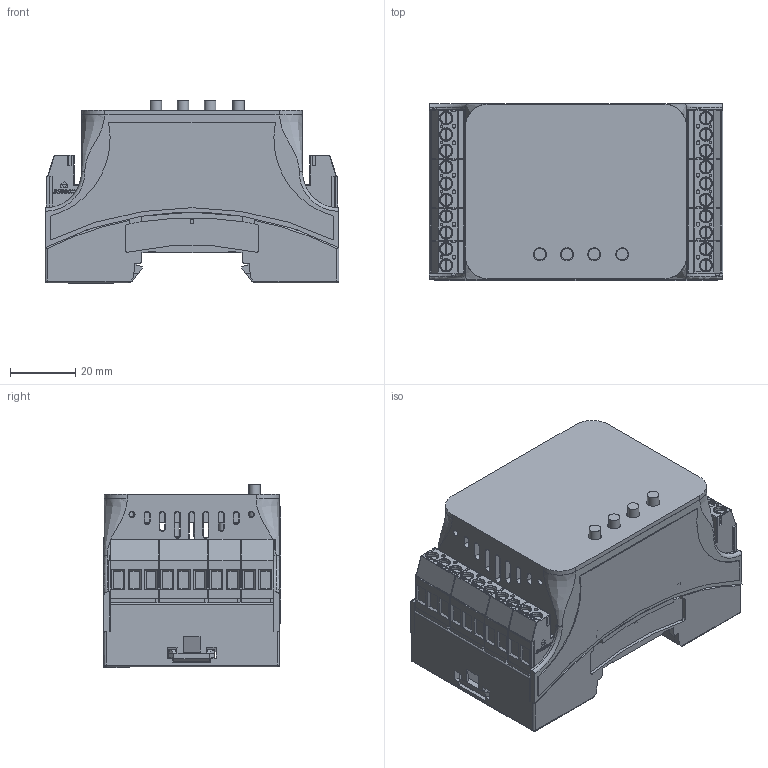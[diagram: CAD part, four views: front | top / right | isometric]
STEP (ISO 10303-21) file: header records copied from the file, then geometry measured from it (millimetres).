
FILE_DESCRIPTION(/* description */ (''),/* implementation_level */ '2;1');
FILE_NAME(/* name */ 'D:\WorkIMT\Project IMT\Флокс-ТВ\v2\3D на сайт\Флокс-ТВ.stp',/* time_stamp */ '2026-07-17T14:19:54+03:00',/* author */ ('admin'),/* organization */ (''),/* preprocessor_version */ 'ST-DEVELOPER v17.2',/* originating_system */ 'Autodesk Inventor 2019',/* authorisation */ '');
FILE_SCHEMA (('AUTOMOTIVE_DESIGN { 1 0 10303 214 3 1 1 }'));
Products named in the file (1): Флокс-ТВ
Bounding box: 89.74 x 54.2 x 56.03 mm (x, y, z)
Volume: 69538.1 mm3; surface area: 74263.9 mm2
Topology: 17 solids, 59 shells, 5024 faces, 14157 edges, 9222 vertices
Faces by surface type: plane 4120, cylinder 480, torus 145, cone 110, bspline 105, sphere 64
Full cylindrical faces by diameter (mm): 1.2 x18, 1.6 x20, 3 x5, 3.5 x4, 4 x4, 4.05 x20
Entity records: 177454 total; most frequent: CARTESIAN_POINT 42797, ORIENTED_EDGE 28178, DIRECTION 25098, EDGE_CURVE 14089, LINE 11458, VECTOR 11458, VERTEX_POINT 9222, AXIS2_PLACEMENT_3D 6820
